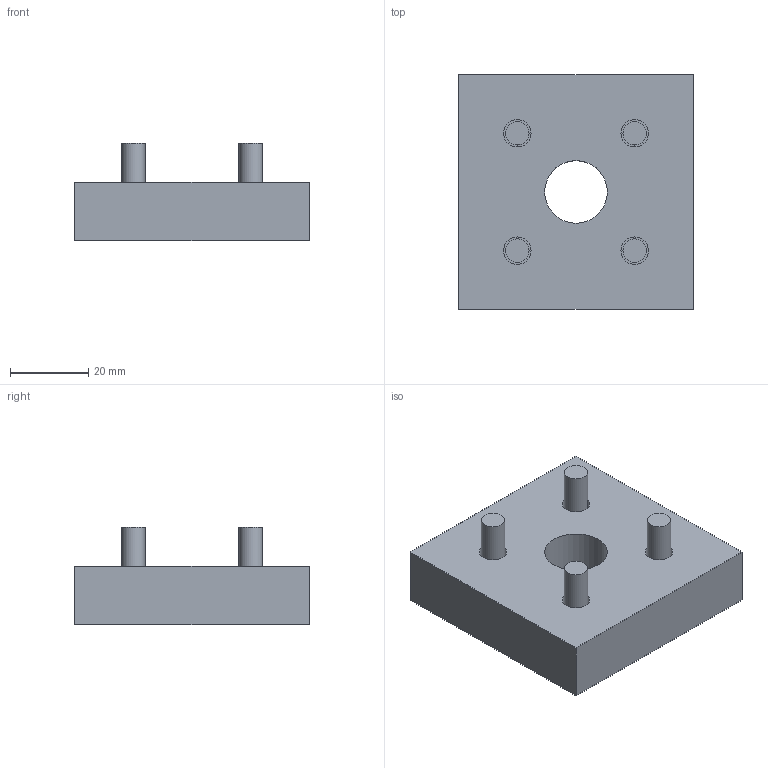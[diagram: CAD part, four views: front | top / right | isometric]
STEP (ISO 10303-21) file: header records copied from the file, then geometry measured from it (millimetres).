
FILE_DESCRIPTION((''),'2;1');
FILE_NAME('C:\Documents and Settings\古川典政\My Documents\Inventor\HP用\MasterData\ACCESSORY\M6\LFA-6060-6.stp','2008-08-05T14:44:33',(''),(''),'Autodesk Inventor 2008','Autodesk Inventor 2008','');
FILE_SCHEMA(('CONFIG_CONTROL_DESIGN'));
Length unit declared in the file: millimetre
Products named in the file (6): LFA-6060-6; LFA-6060-61; LFA-6060-62; LFA-6060-63; LFA-6060-64; LFA-6060-65
Assembly tree (5 placements, depth 2):
  LFA-6060-6
    LFA-6060-61
    LFA-6060-62
    LFA-6060-63
    LFA-6060-64
    LFA-6060-65
Bounding box: 60 x 60 x 25 mm (x, y, z)
Volume: 51013.9 mm3; surface area: 15254.2 mm2
Topology: 5 solids, 5 shells, 39 faces, 64 edges, 43 vertices
Faces by surface type: plane 18, bspline 13, cylinder 8
Full cylindrical faces by diameter (mm): 6 x4, 10 x4
Entity records: 1122 total; most frequent: CARTESIAN_POINT 303, DIRECTION 154, ORIENTED_EDGE 92, EDGE_LOOP 74, AXIS2_PLACEMENT_3D 71, EDGE_CURVE 46, VERTEX_POINT 42, FACE_OUTER_BOUND 39
